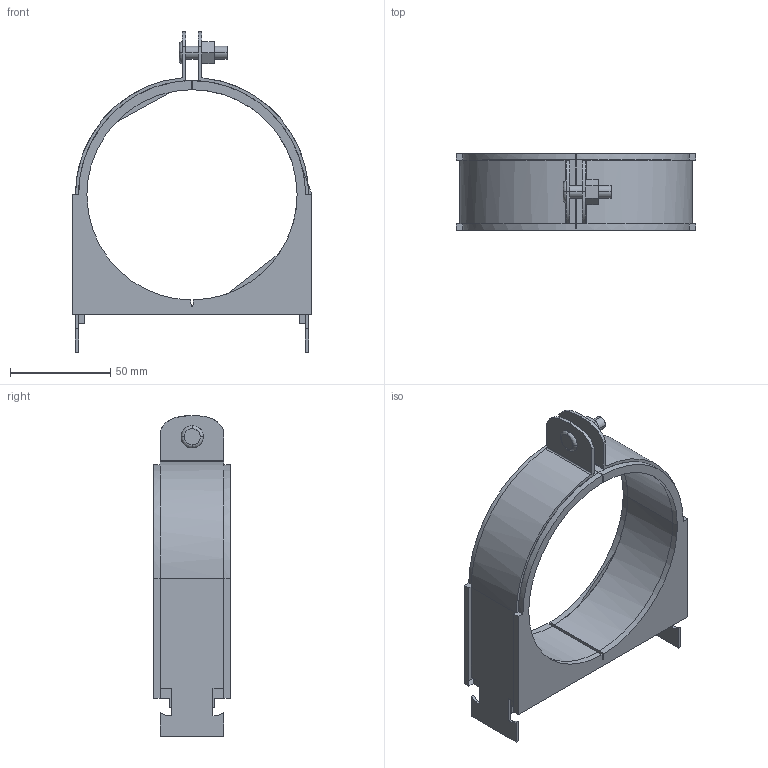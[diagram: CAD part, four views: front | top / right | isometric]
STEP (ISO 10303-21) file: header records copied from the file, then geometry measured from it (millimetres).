
FILE_DESCRIPTION(('TurboCAD Mac Pro'),'Build 980');
FILE_NAME('066N074.stp',' ',(''),(''),'ACIS Interop','IMSI','TurboCAD Mac Pro BY IMSI, INCORPORATED');
FILE_SCHEMA(('automotive_design'));
Length unit declared in the file: inch
Products named in the file (3): 1; 2; 3
Bounding box: 119.24 x 38.1 x 159.76 mm (x, y, z)
Volume: 142173.1 mm3; surface area: 62056.8 mm2
Topology: 3 solids, 3 shells, 143 faces, 375 edges, 242 vertices
Faces by surface type: plane 97, bspline 46
Entity records: 6921 total; most frequent: CARTESIAN_POINT 1711, ORIENTED_EDGE 750, DIRECTION 477, EDGE_CURVE 375, STYLED_ITEM 310, PRESENTATION_STYLE_ASSIGNMENT 310, COLOUR_RGB 310, LINE 269
